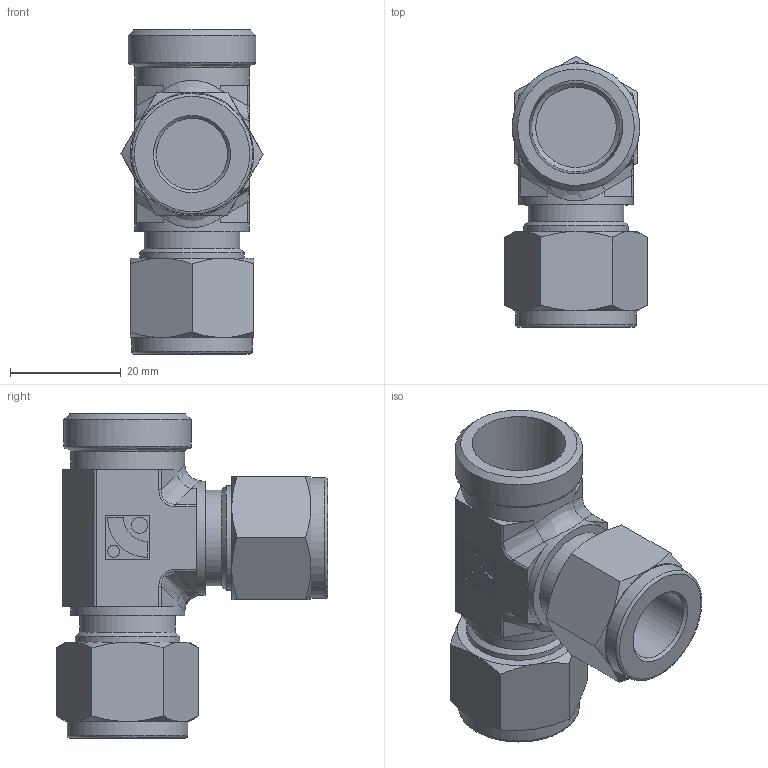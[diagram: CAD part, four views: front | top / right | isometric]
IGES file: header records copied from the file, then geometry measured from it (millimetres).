
Global section: file name: SFRT-8-6N; native system: Autodesk Inventor 2016; preprocessor: unknown; author: DESIGNPC2; date: 20151031.102536; units: millimetre
Bounding box: 25.67 x 48.94 x 58.5 mm (x, y, z)
Volume: 22551.4 mm3; surface area: 10125.8 mm2
Topology: 1 solids, 1 shells, 135 faces, 349 edges, 231 vertices
Faces by surface type: bspline 135
